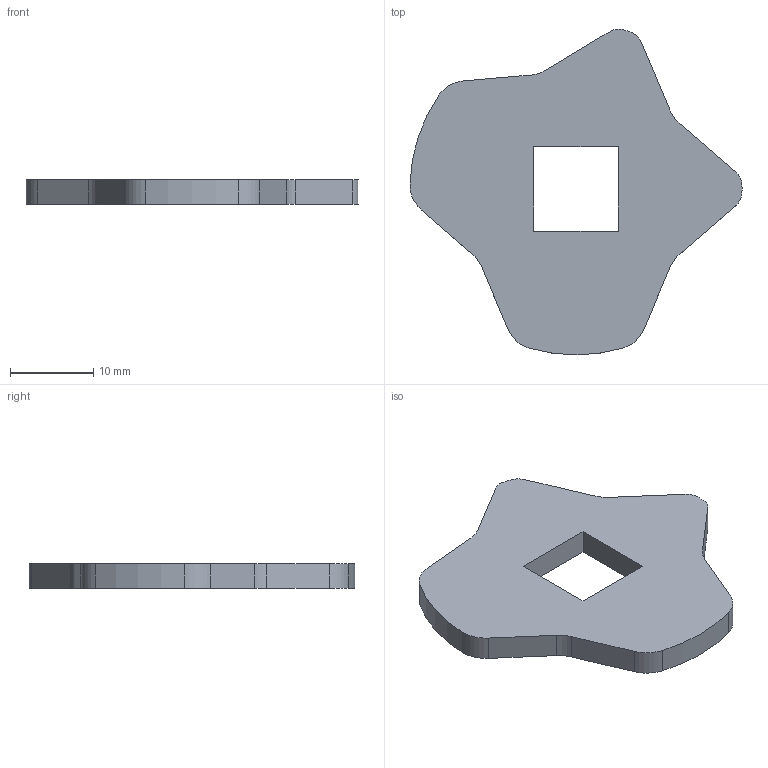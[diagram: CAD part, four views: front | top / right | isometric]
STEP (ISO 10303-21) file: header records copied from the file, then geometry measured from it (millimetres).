
FILE_DESCRIPTION(/* description */ ('STEP AP242','CAx-IF Rec.Pracs.---Representation and Presentation of Product Manufacturing Information (PMI)---4.0---2014-10-13','CAx-IF Rec.Pracs.---3D Tessellated Geometry---0.4---2014-09-14','2;1'),/* implementation_level */ '2;1');
FILE_NAME(/* name */ 'Part Studio 1 - Segment G Cam',/* time_stamp */ '2025-09-04T05:47:29Z',/* author */ (''),/* organization */ (''),/* preprocessor_version */ 'ST-DEVELOPER v20',/* originating_system */ 'ONSHAPE BY PTC INC, 1.203',/* authorisation */ ' ');
FILE_SCHEMA (('AP242_MANAGED_MODEL_BASED_3D_ENGINEERING_MIM_LF { 1 0 10303 442 1 1 4 }'));
Length unit declared in the file: metre
Products named in the file (1): Segment G Cam
Bounding box: 39.99 x 39.25 x 3 mm (x, y, z)
Volume: 2615.4 mm3; surface area: 2232 mm2
Topology: 1 solids, 1 shells, 30 faces, 84 edges, 56 vertices
Faces by surface type: cylinder 16, plane 14
Entity records: 1006 total; most frequent: DIRECTION 178, CARTESIAN_POINT 171, ORIENTED_EDGE 168, EDGE_CURVE 84, AXIS2_PLACEMENT_3D 63, VERTEX_POINT 56, LINE 52, VECTOR 52
